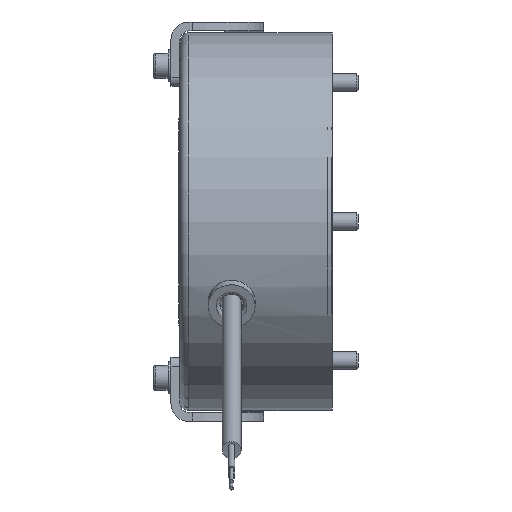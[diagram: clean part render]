
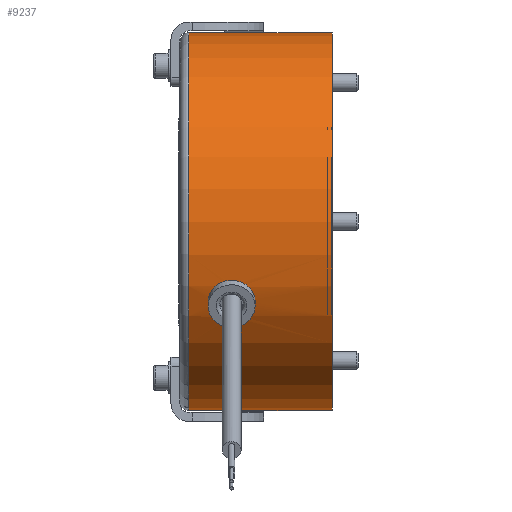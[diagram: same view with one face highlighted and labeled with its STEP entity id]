
A CAD part, front view. The second image highlights one B-rep face of the part: STEP entity #9237.
In plain terms, the highlighted cylindrical face has radius 53 mm (diameter 106 mm), a full revolution.
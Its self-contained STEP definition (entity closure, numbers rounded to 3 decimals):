
#172=B_SPLINE_CURVE_WITH_KNOTS('',3,(#14338,#14339,#14340,#14341,#14342,
#14343,#14344,#14345,#14346,#14347,#14348,#14349,#14350,#14351,#14352,#14353,
#14354,#14355),.UNSPECIFIED.,.F.,.F.,(4,2,2,2,2,2,2,2,4),(0.767,
0.959,1.151,1.342,1.534,1.725,
1.917,2.109,2.301),.UNSPECIFIED.);
#173=B_SPLINE_CURVE_WITH_KNOTS('',3,(#14358,#14359,#14360,#14361,#14362,
#14363,#14364,#14365,#14366,#14367,#14368,#14369,#14370,#14371,#14372,#14373,
#14374,#14375,#14376),.UNSPECIFIED.,.F.,.F.,(4,2,2,2,3,2,2,2,4),(2.301,
2.493,2.684,2.876,3.068,3.259,
3.451,3.643,3.835),.UNSPECIFIED.);
#398=CYLINDRICAL_SURFACE('',#9886,53.);
#595=FACE_BOUND('',#1864,.T.);
#804=CIRCLE('',#9887,53.);
#805=CIRCLE('',#9888,53.);
#806=CIRCLE('',#9889,53.);
#807=CIRCLE('',#9890,53.);
#808=CIRCLE('',#9891,53.);
#1360=FACE_OUTER_BOUND('',#1863,.T.);
#1863=EDGE_LOOP('',(#6437,#6438,#6439,#6440,#6441,#6442,#6443));
#1864=EDGE_LOOP('',(#6444,#6445,#6446,#6447,#6448,#6449));
#2516=LINE('',#14455,#3030);
#2517=LINE('',#14461,#3031);
#2518=LINE('',#14462,#3032);
#3030=VECTOR('',#11324,53.);
#3031=VECTOR('',#11331,10.);
#3032=VECTOR('',#11332,10.);
#3650=VERTEX_POINT('',#14336);
#3651=VERTEX_POINT('',#14337);
#3652=VERTEX_POINT('',#14379);
#3653=VERTEX_POINT('',#14381);
#3664=VERTEX_POINT('',#14450);
#3665=VERTEX_POINT('',#14451);
#3666=VERTEX_POINT('',#14454);
#3667=VERTEX_POINT('',#14456);
#3668=VERTEX_POINT('',#14458);
#4690=EDGE_CURVE('',#3650,#3651,#172,.T.);
#4692=EDGE_CURVE('',#3651,#3650,#173,.T.);
#4711=EDGE_CURVE('',#3664,#3665,#804,.T.);
#4712=EDGE_CURVE('',#3665,#3664,#805,.T.);
#4713=EDGE_CURVE('',#3665,#3666,#2516,.T.);
#4714=EDGE_CURVE('',#3667,#3666,#806,.T.);
#4715=EDGE_CURVE('',#3668,#3667,#807,.T.);
#4716=EDGE_CURVE('',#3666,#3668,#808,.T.);
#4717=EDGE_CURVE('',#3651,#3653,#2517,.T.);
#4718=EDGE_CURVE('',#3652,#3650,#2518,.T.);
#6437=ORIENTED_EDGE('',*,*,#4711,.F.);
#6438=ORIENTED_EDGE('',*,*,#4712,.F.);
#6439=ORIENTED_EDGE('',*,*,#4713,.T.);
#6440=ORIENTED_EDGE('',*,*,#4714,.F.);
#6441=ORIENTED_EDGE('',*,*,#4715,.F.);
#6442=ORIENTED_EDGE('',*,*,#4716,.F.);
#6443=ORIENTED_EDGE('',*,*,#4713,.F.);
#6444=ORIENTED_EDGE('',*,*,#4717,.T.);
#6445=ORIENTED_EDGE('',*,*,#4717,.F.);
#6446=ORIENTED_EDGE('',*,*,#4692,.T.);
#6447=ORIENTED_EDGE('',*,*,#4718,.F.);
#6448=ORIENTED_EDGE('',*,*,#4718,.T.);
#6449=ORIENTED_EDGE('',*,*,#4690,.T.);
#9237=ADVANCED_FACE('',(#1360,#595),#398,.T.);
#9886=AXIS2_PLACEMENT_3D('',#14449,#11318,#11319);
#9887=AXIS2_PLACEMENT_3D('',#14452,#11320,#11321);
#9888=AXIS2_PLACEMENT_3D('',#14453,#11322,#11323);
#9889=AXIS2_PLACEMENT_3D('',#14457,#11325,#11326);
#9890=AXIS2_PLACEMENT_3D('',#14459,#11327,#11328);
#9891=AXIS2_PLACEMENT_3D('',#14460,#11329,#11330);
#11318=DIRECTION('center_axis',(1.,0.,0.));
#11319=DIRECTION('ref_axis',(0.,1.,0.));
#11320=DIRECTION('center_axis',(1.,0.,0.));
#11321=DIRECTION('ref_axis',(0.,1.,0.));
#11322=DIRECTION('center_axis',(1.,0.,0.));
#11323=DIRECTION('ref_axis',(0.,1.,0.));
#11324=DIRECTION('',(-1.,0.,0.));
#11325=DIRECTION('center_axis',(-1.,0.,0.));
#11326=DIRECTION('ref_axis',(0.,-1.,0.));
#11327=DIRECTION('center_axis',(-1.,0.,0.));
#11328=DIRECTION('ref_axis',(0.,-1.,0.));
#11329=DIRECTION('center_axis',(-1.,0.,0.));
#11330=DIRECTION('ref_axis',(0.,-1.,0.));
#11331=DIRECTION('',(1.,0.,0.));
#11332=DIRECTION('',(1.,0.,0.));
#14336=CARTESIAN_POINT('',(-33.3,-48.034,-22.399));
#14337=CARTESIAN_POINT('',(-23.1,-48.034,-22.399));
#14338=CARTESIAN_POINT('Ctrl Pts',(-33.3,-48.034,-22.399));
#14339=CARTESIAN_POINT('Ctrl Pts',(-33.3,-48.305,-21.819));
#14340=CARTESIAN_POINT('Ctrl Pts',(-33.171,-48.581,
-21.196));
#14341=CARTESIAN_POINT('Ctrl Pts',(-32.648,-49.068,
-20.042));
#14342=CARTESIAN_POINT('Ctrl Pts',(-32.254,-49.28,-19.511));
#14343=CARTESIAN_POINT('Ctrl Pts',(-31.347,-49.604,-18.671));
#14344=CARTESIAN_POINT('Ctrl Pts',(-30.774,-49.739,
-18.305));
#14345=CARTESIAN_POINT('Ctrl Pts',(-29.52,-49.916,
-17.818));
#14346=CARTESIAN_POINT('Ctrl Pts',(-28.839,-49.958,-17.698));
#14347=CARTESIAN_POINT('Ctrl Pts',(-27.561,-49.958,-17.698));
#14348=CARTESIAN_POINT('Ctrl Pts',(-26.88,-49.916,
-17.818));
#14349=CARTESIAN_POINT('Ctrl Pts',(-25.626,-49.739,
-18.305));
#14350=CARTESIAN_POINT('Ctrl Pts',(-25.053,-49.604,-18.671));
#14351=CARTESIAN_POINT('Ctrl Pts',(-24.146,-49.28,
-19.511));
#14352=CARTESIAN_POINT('Ctrl Pts',(-23.752,-49.068,
-20.042));
#14353=CARTESIAN_POINT('Ctrl Pts',(-23.229,-48.581,
-21.196));
#14354=CARTESIAN_POINT('Ctrl Pts',(-23.1,-48.305,-21.819));
#14355=CARTESIAN_POINT('Ctrl Pts',(-23.1,-48.034,-22.399));
#14358=CARTESIAN_POINT('Ctrl Pts',(-23.1,-48.034,-22.399));
#14359=CARTESIAN_POINT('Ctrl Pts',(-23.1,-47.764,-22.978));
#14360=CARTESIAN_POINT('Ctrl Pts',(-23.229,-47.465,
-23.591));
#14361=CARTESIAN_POINT('Ctrl Pts',(-23.752,-46.894,
-24.706));
#14362=CARTESIAN_POINT('Ctrl Pts',(-24.146,-46.623,
-25.209));
#14363=CARTESIAN_POINT('Ctrl Pts',(-25.053,-46.188,-25.998));
#14364=CARTESIAN_POINT('Ctrl Pts',(-25.626,-45.994,
-26.336));
#14365=CARTESIAN_POINT('Ctrl Pts',(-26.88,-45.735,
-26.784));
#14366=CARTESIAN_POINT('Ctrl Pts',(-27.561,-45.67,
-26.894));
#14367=CARTESIAN_POINT('Ctrl Pts',(-28.2,-45.67,-26.894));
#14368=CARTESIAN_POINT('Ctrl Pts',(-28.839,-45.67,
-26.894));
#14369=CARTESIAN_POINT('Ctrl Pts',(-29.52,-45.735,
-26.784));
#14370=CARTESIAN_POINT('Ctrl Pts',(-30.774,-45.994,
-26.336));
#14371=CARTESIAN_POINT('Ctrl Pts',(-31.347,-46.188,-25.998));
#14372=CARTESIAN_POINT('Ctrl Pts',(-32.254,-46.623,
-25.209));
#14373=CARTESIAN_POINT('Ctrl Pts',(-32.648,-46.894,
-24.706));
#14374=CARTESIAN_POINT('Ctrl Pts',(-33.171,-47.465,
-23.591));
#14375=CARTESIAN_POINT('Ctrl Pts',(-33.3,-47.764,-22.978));
#14376=CARTESIAN_POINT('Ctrl Pts',(-33.3,-48.034,-22.399));
#14379=CARTESIAN_POINT('',(-34.8,-48.034,-22.399));
#14381=CARTESIAN_POINT('',(-21.6,-48.034,-22.399));
#14449=CARTESIAN_POINT('Origin',(-21.35,0.,0.));
#14450=CARTESIAN_POINT('',(0.,53.,0.));
#14451=CARTESIAN_POINT('',(0.,-53.,0.));
#14452=CARTESIAN_POINT('Origin',(0.,0.,0.));
#14453=CARTESIAN_POINT('Origin',(0.,0.,0.));
#14454=CARTESIAN_POINT('',(-40.2,-53.,0.));
#14455=CARTESIAN_POINT('',(-21.35,-53.,0.));
#14456=CARTESIAN_POINT('',(-40.2,53.,0.));
#14457=CARTESIAN_POINT('Origin',(-40.2,0.,0.));
#14458=CARTESIAN_POINT('',(-40.2,0.,53.));
#14459=CARTESIAN_POINT('Origin',(-40.2,0.,0.));
#14460=CARTESIAN_POINT('Origin',(-40.2,0.,0.));
#14461=CARTESIAN_POINT('',(-21.35,-48.034,-22.399));
#14462=CARTESIAN_POINT('',(-21.35,-48.034,-22.399));
